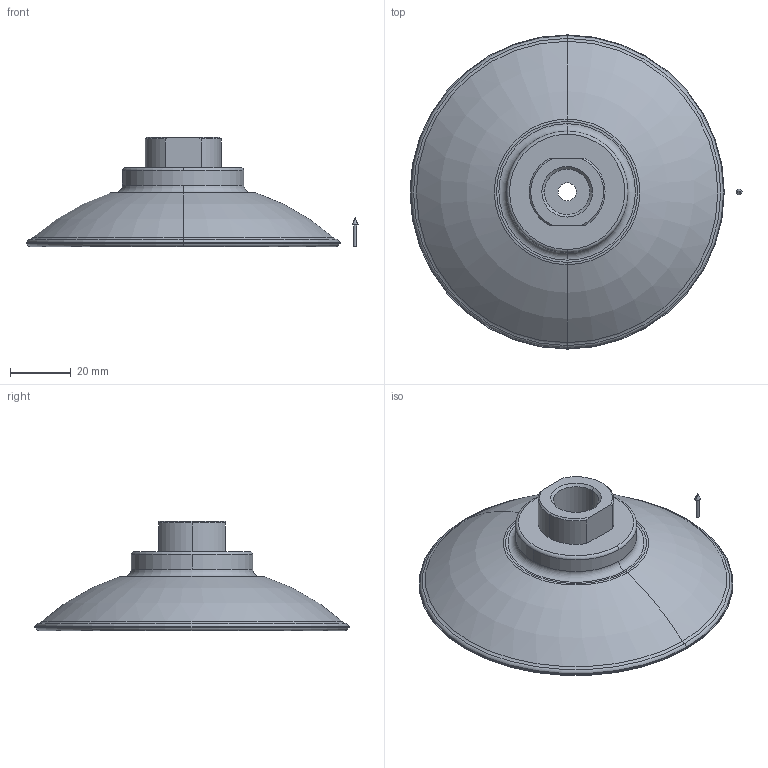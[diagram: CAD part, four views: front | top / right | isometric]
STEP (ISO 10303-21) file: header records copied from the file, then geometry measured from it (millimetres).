
FILE_DESCRIPTION(('STEP AP214'),'1');
FILE_NAME('10_01_01_10516.stp','2020-10-24T00:25:27',('TraceParts'),('TraceParts S.A.'),'Spatial InterOp 3D',' ',' ');
FILE_SCHEMA(('AUTOMOTIVE_DESIGN { 1 0 10303 214 1 1 1 1 }'));
Length unit declared in the file: millimetre
Products named in the file (1): 10_01_01_10516_1
Bounding box: 109.45 x 103.6 x 36 mm (x, y, z)
Volume: 50380.3 mm3; surface area: 25432.9 mm2
Topology: 2 solids, 2 shells, 121 faces, 293 edges, 182 vertices
Faces by surface type: torus 42, cone 34, cylinder 32, plane 13
Entity records: 4602 total; most frequent: DIRECTION 750, CARTESIAN_POINT 604, ORIENTED_EDGE 582, AXIS2_PLACEMENT_3D 340, EDGE_CURVE 291, CIRCLE 217, VERTEX_POINT 182, EDGE_LOOP 131
